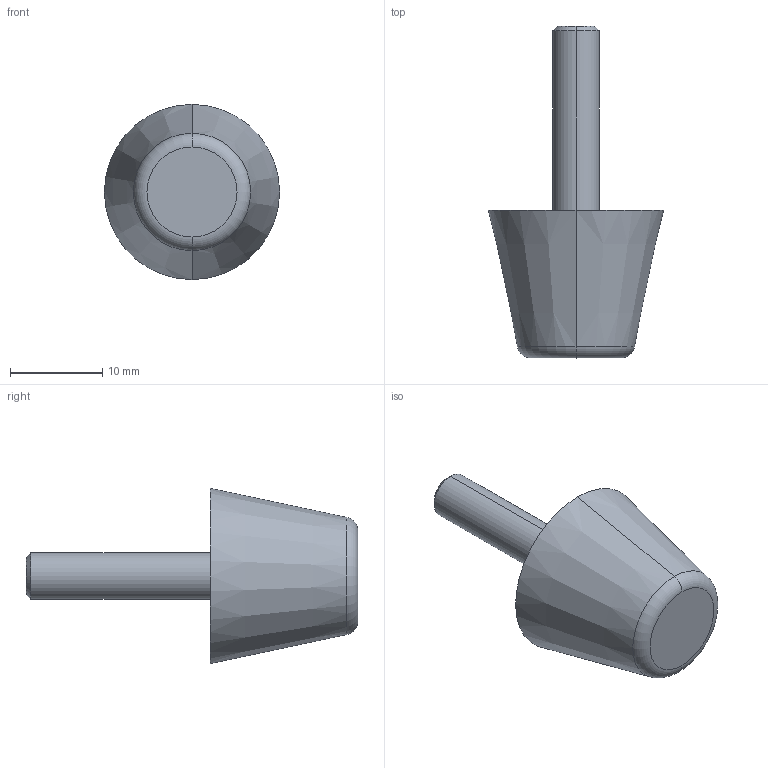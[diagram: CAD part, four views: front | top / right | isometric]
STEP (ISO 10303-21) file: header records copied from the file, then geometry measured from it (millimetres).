
FILE_DESCRIPTION (( 'STEP AP214' ), '1' );
FILE_NAME ('253-19-M5-20-40.step', '2023-03-24T07:37:02', ( '' ), ( '' ), 'SwSTEP 2.0', 'SolidWorks 2022', '' );
FILE_SCHEMA (( 'AUTOMOTIVE_DESIGN' ));
Length unit declared in the file: millimetre
Products named in the file (1): 253-19-M5-20-40
Bounding box: 19 x 35.99 x 19 mm (x, y, z)
Volume: 3485.1 mm3; surface area: 1496.1 mm2
Topology: 1 solids, 1 shells, 14 faces, 26 edges, 16 vertices
Faces by surface type: cone 6, plane 4, cylinder 2, torus 2
Entity records: 500 total; most frequent: DIRECTION 74, CARTESIAN_POINT 57, ORIENTED_EDGE 52, AXIS2_PLACEMENT_3D 33, EDGE_CURVE 26, CIRCLE 18, EDGE_LOOP 16, VERTEX_POINT 16
